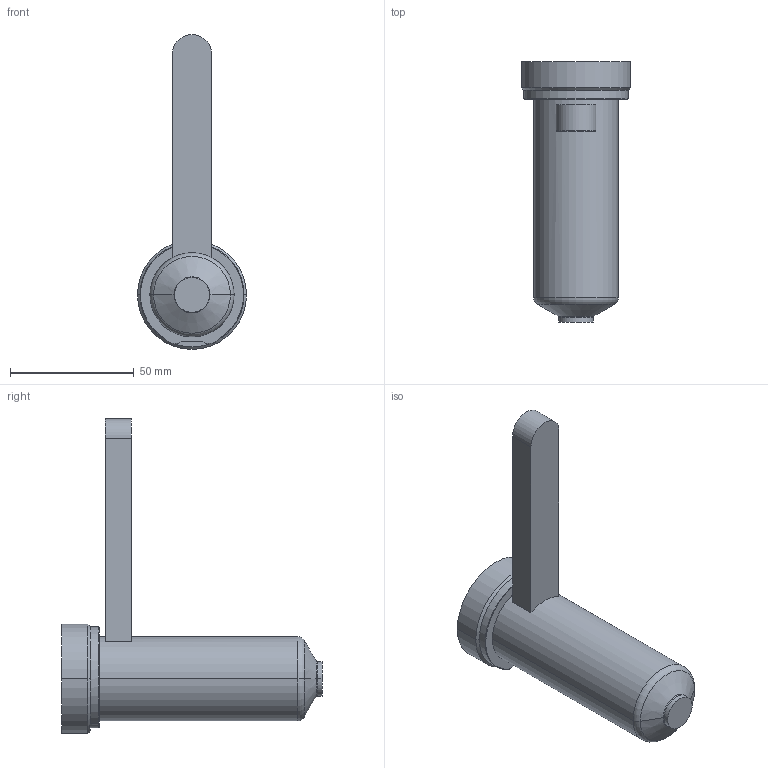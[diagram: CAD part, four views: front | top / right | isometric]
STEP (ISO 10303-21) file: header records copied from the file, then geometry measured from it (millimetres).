
FILE_DESCRIPTION((''),'2;1');
FILE_NAME('EO10_PG-FB_WR_090_COT','2024-02-19T11:34:51',('sundharh'),(''),'CREO PARAMETRIC BY PTC INC, 2023154','CREO PARAMETRIC BY PTC INC, 2023154','');
FILE_SCHEMA(('CONFIG_CONTROL_DESIGN'));
Length unit declared in the file: millimetre
Products named in the file (1): EO10_PG-FB_WR_090_COT
Bounding box: 44 x 105 x 127 mm (x, y, z)
Volume: 114269.1 mm3; surface area: 18524.6 mm2
Topology: 1 solids, 1 shells, 31 faces, 67 edges, 40 vertices
Faces by surface type: cylinder 11, plane 9, torus 7, cone 4
Entity records: 959 total; most frequent: CARTESIAN_POINT 226, DIRECTION 159, ORIENTED_EDGE 134, AXIS2_PLACEMENT_3D 67, EDGE_CURVE 67, VERTEX_POINT 40, CIRCLE 36, EDGE_LOOP 33
